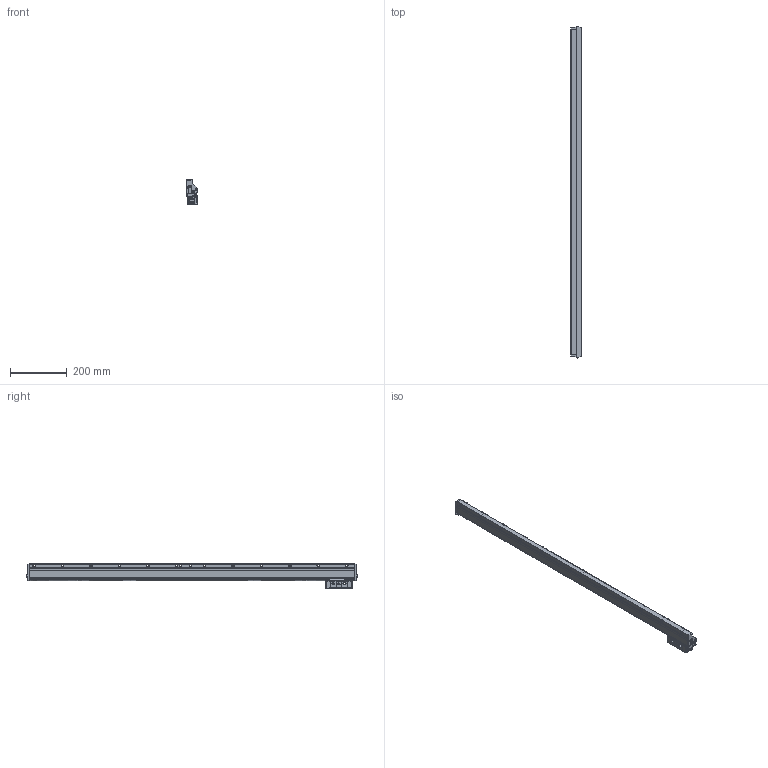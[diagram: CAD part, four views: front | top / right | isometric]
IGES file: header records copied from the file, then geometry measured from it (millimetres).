
Start section: Elysium IGES Interface
Global section: file name: 82HK:\20_商品設計\設計１課\個人\宮澤\郷間さん\AT1123\3D\NEW_ﾌｧｲﾙ\IGES\AT1123-1040.igs; native system: Creo Elements/Direct Modeling 18.1B  29-Sep-2012; preprocessor: Creo Element/Direct IGES_3D V2.2; author: Unknown; organization: Unknown; date: 20181012.091030; units: millimetre
Bounding box: 37 x 1168.44 x 85 mm (x, y, z)
Volume: 1850212.4 mm3; surface area: 270162.1 mm2
Topology: 2 solids, 2 shells, 3004 faces, 7979 edges, 5169 vertices
Faces by surface type: bspline 3004
